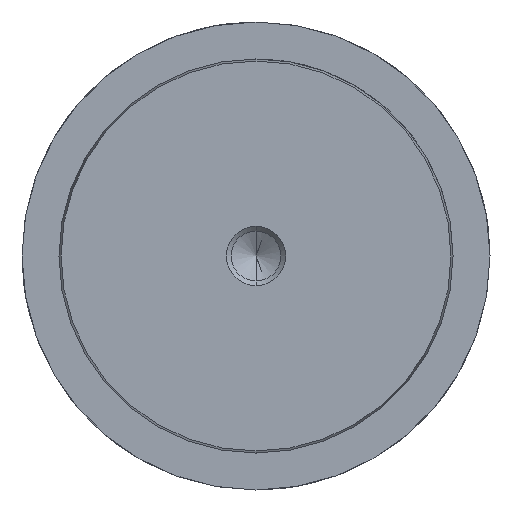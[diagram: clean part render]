
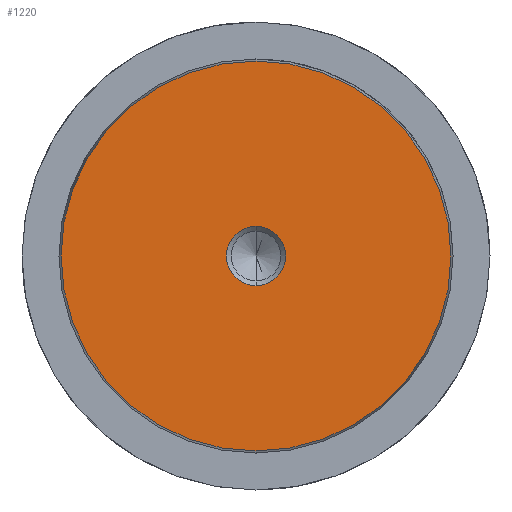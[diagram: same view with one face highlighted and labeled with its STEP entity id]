
A CAD part, left-side view. The second image highlights one B-rep face of the part: STEP entity #1220.
In plain terms, the highlighted planar face has unit normal (-1, 0, 0).
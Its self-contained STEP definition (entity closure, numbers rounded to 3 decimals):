
#1118=CARTESIAN_POINT('Vertex',(0.,0.,-39.578)) ;
#1121=CARTESIAN_POINT('Axis2P3D Location',(0.,0.,0.)) ;
#1125=CARTESIAN_POINT('Vertex',(0.,39.578,0.)) ;
#1128=CARTESIAN_POINT('Axis2P3D Location',(0.,0.,0.)) ;
#1132=CARTESIAN_POINT('Vertex',(0.,0.,39.578)) ;
#1154=CARTESIAN_POINT('Axis2P3D Location',(0.,0.,0.)) ;
#1158=CARTESIAN_POINT('Vertex',(0.,-39.578,0.)) ;
#1161=CARTESIAN_POINT('Axis2P3D Location',(0.,0.,0.)) ;
#1175=CARTESIAN_POINT('Axis2P3D Location',(0.,0.,0.)) ;
#1186=CARTESIAN_POINT('Axis2P3D Location',(0.,0.,0.)) ;
#1190=CARTESIAN_POINT('Vertex',(0.,6.,0.)) ;
#1192=CARTESIAN_POINT('Vertex',(0.,0.,6.)) ;
#1195=CARTESIAN_POINT('Axis2P3D Location',(0.,0.,0.)) ;
#1199=CARTESIAN_POINT('Vertex',(0.,-6.,0.)) ;
#1202=CARTESIAN_POINT('Axis2P3D Location',(0.,0.,0.)) ;
#1206=CARTESIAN_POINT('Vertex',(0.,0.,-6.)) ;
#1209=CARTESIAN_POINT('Axis2P3D Location',(0.,0.,0.)) ;
#1122=DIRECTION('Axis2P3D Direction',(1.,-0.,0.)) ;
#1129=DIRECTION('Axis2P3D Direction',(1.,-0.,0.)) ;
#1155=DIRECTION('Axis2P3D Direction',(1.,0.,-0.)) ;
#1162=DIRECTION('Axis2P3D Direction',(1.,0.,-0.)) ;
#1176=DIRECTION('Axis2P3D Direction',(1.,0.,-0.)) ;
#1177=DIRECTION('Axis2P3D XDirection',(-0.,0.,-1.)) ;
#1187=DIRECTION('Axis2P3D Direction',(1.,0.,-0.)) ;
#1196=DIRECTION('Axis2P3D Direction',(1.,0.,-0.)) ;
#1203=DIRECTION('Axis2P3D Direction',(1.,0.,-0.)) ;
#1210=DIRECTION('Axis2P3D Direction',(1.,0.,-0.)) ;
#1123=AXIS2_PLACEMENT_3D('Circle Axis2P3D',#1121,#1122,$) ;
#1130=AXIS2_PLACEMENT_3D('Circle Axis2P3D',#1128,#1129,$) ;
#1156=AXIS2_PLACEMENT_3D('Circle Axis2P3D',#1154,#1155,$) ;
#1163=AXIS2_PLACEMENT_3D('Circle Axis2P3D',#1161,#1162,$) ;
#1178=AXIS2_PLACEMENT_3D('Plane Axis2P3D',#1175,#1176,#1177) ;
#1188=AXIS2_PLACEMENT_3D('Circle Axis2P3D',#1186,#1187,$) ;
#1197=AXIS2_PLACEMENT_3D('Circle Axis2P3D',#1195,#1196,$) ;
#1204=AXIS2_PLACEMENT_3D('Circle Axis2P3D',#1202,#1203,$) ;
#1211=AXIS2_PLACEMENT_3D('Circle Axis2P3D',#1209,#1210,$) ;
#1181=ORIENTED_EDGE('',*,*,#1127,.F.) ;
#1182=ORIENTED_EDGE('',*,*,#1165,.F.) ;
#1183=ORIENTED_EDGE('',*,*,#1160,.F.) ;
#1184=ORIENTED_EDGE('',*,*,#1134,.F.) ;
#1215=ORIENTED_EDGE('',*,*,#1194,.T.) ;
#1216=ORIENTED_EDGE('',*,*,#1201,.T.) ;
#1217=ORIENTED_EDGE('',*,*,#1208,.T.) ;
#1218=ORIENTED_EDGE('',*,*,#1213,.T.) ;
#1219=FACE_BOUND('',#1214,.T.) ;
#1220=ADVANCED_FACE('719-80x250',(#1185,#1219),#1179,.F.) ;
#1124=CIRCLE('generated circle',#1123,39.578) ;
#1131=CIRCLE('generated circle',#1130,39.578) ;
#1157=CIRCLE('generated circle',#1156,39.578) ;
#1164=CIRCLE('generated circle',#1163,39.578) ;
#1189=CIRCLE('generated circle',#1188,6.) ;
#1198=CIRCLE('generated circle',#1197,6.) ;
#1205=CIRCLE('generated circle',#1204,6.) ;
#1212=CIRCLE('generated circle',#1211,6.) ;
#1127=EDGE_CURVE('',#1119,#1126,#1124,.T.) ;
#1134=EDGE_CURVE('',#1126,#1133,#1131,.T.) ;
#1160=EDGE_CURVE('',#1133,#1159,#1157,.T.) ;
#1165=EDGE_CURVE('',#1159,#1119,#1164,.T.) ;
#1194=EDGE_CURVE('',#1191,#1193,#1189,.T.) ;
#1201=EDGE_CURVE('',#1193,#1200,#1198,.T.) ;
#1208=EDGE_CURVE('',#1200,#1207,#1205,.T.) ;
#1213=EDGE_CURVE('',#1207,#1191,#1212,.T.) ;
#1180=EDGE_LOOP('',(#1181,#1182,#1183,#1184)) ;
#1214=EDGE_LOOP('',(#1215,#1216,#1217,#1218)) ;
#1185=FACE_OUTER_BOUND('',#1180,.T.) ;
#1179=PLANE('Plane',#1178) ;
#1119=VERTEX_POINT('',#1118) ;
#1126=VERTEX_POINT('',#1125) ;
#1133=VERTEX_POINT('',#1132) ;
#1159=VERTEX_POINT('',#1158) ;
#1191=VERTEX_POINT('',#1190) ;
#1193=VERTEX_POINT('',#1192) ;
#1200=VERTEX_POINT('',#1199) ;
#1207=VERTEX_POINT('',#1206) ;
